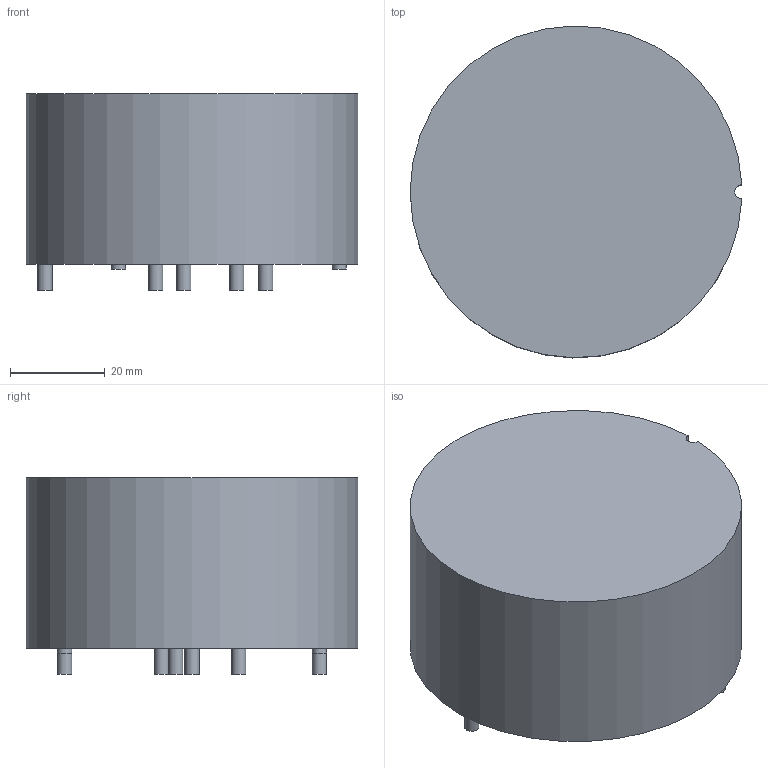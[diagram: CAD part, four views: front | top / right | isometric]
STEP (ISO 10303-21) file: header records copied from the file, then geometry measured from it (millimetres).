
FILE_DESCRIPTION(/* description */ (''),/* implementation_level */ '2;1');
FILE_NAME(/* name */ 'F:\2016年工作\2016年产品图纸\VAC\X2\4EA754C1\X0\3D模型\产品3D模型\6123-X240\6123-X240 3D model.stp',/* time_stamp */ '2016-06-21T08:47:44+08:00',/* author */ ('CN000560'),/* organization */ (''),/* preprocessor_version */ 'ST-DEVELOPER v16.1',/* originating_system */ 'Autodesk Inventor 2016',/* authorisation */ '');
FILE_SCHEMA (('AUTOMOTIVE_DESIGN { 1 0 10303 214 3 1 1 }'));
Length unit declared in the file: millimetre
Products named in the file (1): 6123-X240 3D model
Bounding box: 69.87 x 69.88 x 41.5 mm (x, y, z)
Volume: 138277.1 mm3; surface area: 15972 mm2
Topology: 1 solids, 1 shells, 22 faces, 33 edges, 22 vertices
Faces by surface type: cylinder 11, plane 11
Full cylindrical faces by diameter (mm): 3 x9
Entity records: 478 total; most frequent: DIRECTION 92, CARTESIAN_POINT 69, ORIENTED_EDGE 48, AXIS2_PLACEMENT_3D 45, EDGE_LOOP 40, EDGE_CURVE 24, FACE_OUTER_BOUND 22, CIRCLE 22
